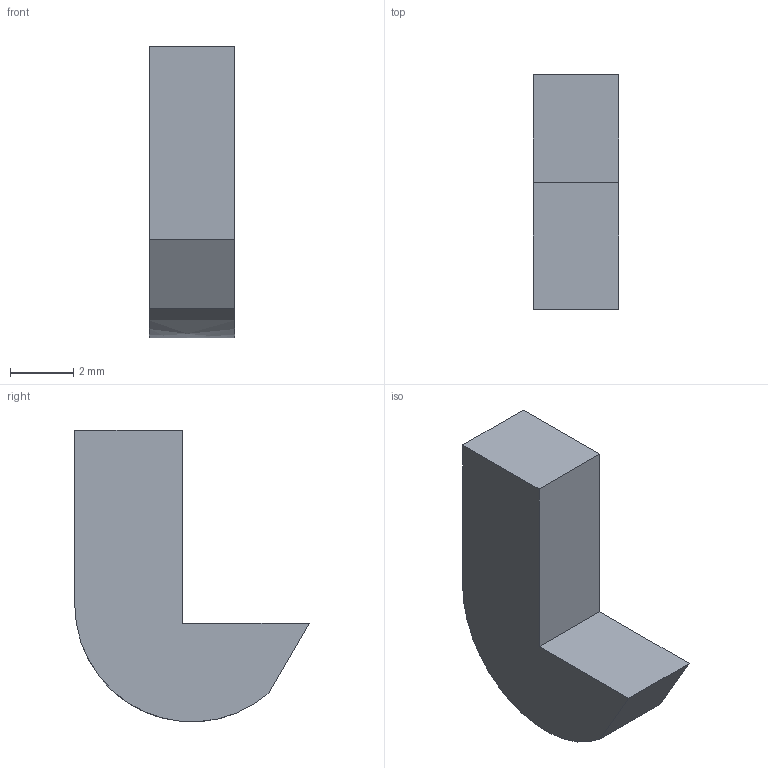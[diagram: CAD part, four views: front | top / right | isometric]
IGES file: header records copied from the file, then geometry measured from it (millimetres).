
Start section:  PTC IGES file: C:\Documents and Settings\audibk\personal\guns\walther\W alther_PPK\iges\auswfrhaken.igs
Global section: file name: C:\Documents and Settings\audibk\personal\guns\walther\Walther_PPK\iges\auswfrhaken.igs; native system: Pro/ENGINEER by Parametric Technology Corporation; preprocessor: 2002180; author: audibk; organization: Unknown; date: 030409.105325; units: millimetre
Bounding box: 2.7 x 7.4 x 9.2 mm (x, y, z)
Volume: 101.3 mm3; surface area: 156 mm2
Topology: 1 solids, 1 shells, 8 faces, 18 edges, 12 vertices
Faces by surface type: bspline 8
